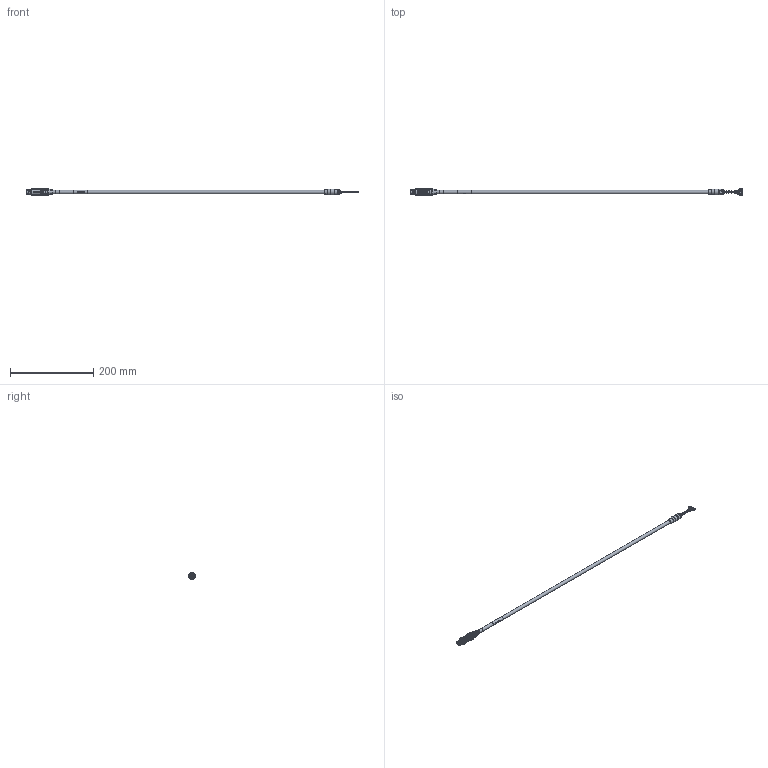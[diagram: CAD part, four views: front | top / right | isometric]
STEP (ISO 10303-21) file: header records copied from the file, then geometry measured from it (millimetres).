
FILE_DESCRIPTION(/* description */ ('VX1311G Serial2 Pigtail B750A6E43D'),/* implementation_level */ '2;1');
FILE_NAME(/* name */ 'C:\Users\TeamCenterSystem\Documents\Inventor\WIR_000191_CUST_iam.STP',/* time_stamp */ '2023-04-26T10:20:56+02:00',/* author */ ('virkgo'),/* organization */ (''),/* preprocessor_version */ 'ST-DEVELOPER v17.2',/* originating_system */ 'Autodesk Inventor 2019',/* authorisation */ '');
FILE_SCHEMA (('AUTOMOTIVE_DESIGN { 1 0 10303 214 3 1 1 }'));
Length unit declared in the file: millimetre
Products named in the file (14): WIR_000191_CUST; WIR_000191; WIR_001377; CMP_002553; CMP_002552; CMP_002110; CMP_002545; CMP_002546; CMP_002104; CMP_002105; CMP_002550; LBL_001344; CMP_002720; WIR_000191_SUB1
Assembly tree (27 placements, depth 3):
  WIR_000191_CUST
    WIR_000191
      WIR_001377
      CMP_002553
      CMP_002552
      CMP_002110
      CMP_002545
      CMP_002546
      CMP_002104
      CMP_002105  x15
      CMP_002550
      LBL_001344
      CMP_002720
      WIR_000191_SUB1
Bounding box: 799 x 18 x 17.75 mm (x, y, z)
Volume: 45227.2 mm3; surface area: 42363.6 mm2
Topology: 85 solids, 85 shells, 4180 faces, 11328 edges, 7433 vertices
Faces by surface type: plane 2931, cylinder 740, bspline 305, cone 135, torus 55, sphere 14
Full cylindrical faces by diameter (mm): 0.249 x1, 0.296 x1, 0.321 x15, 0.44 x2, 0.45 x14, 0.5 x14, 0.52 x14, 0.8 x14, 0.85 x1, 0.9 x14, 0.94 x14, 1.02 x14, 1.2 x1, 5.9 x2, 6 x1, 6.1 x1, 6.4 x2, 6.7 x1, 6.9 x1, 7 x1, 7.35 x1, 7.4 x1, 7.65 x1, 7.7 x3, 7.95 x1, 7.99 x1, 8 x1, 8.03 x1, 8.1 x1, 8.2 x1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
Entity records: 106274 total; most frequent: CARTESIAN_POINT 37717, ORIENTED_EDGE 14088, DIRECTION 12930, EDGE_CURVE 7044, VERTEX_POINT 4689, AXIS2_PLACEMENT_3D 4399, LINE 4132, VECTOR 4132
